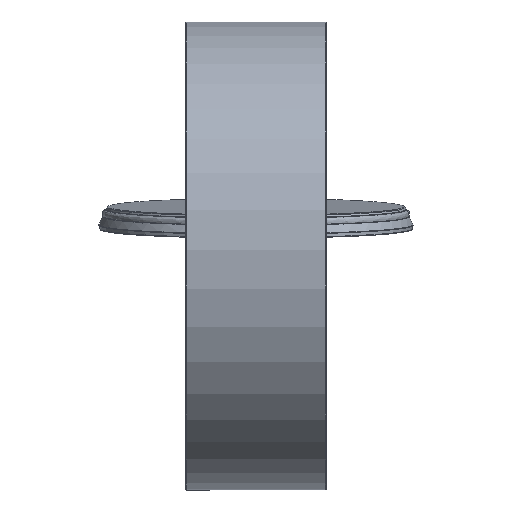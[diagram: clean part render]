
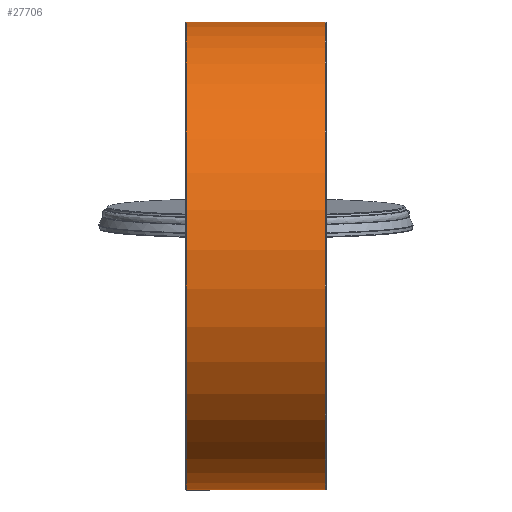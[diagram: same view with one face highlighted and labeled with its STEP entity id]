
A CAD part, left-side view. The second image highlights one B-rep face of the part: STEP entity #27706.
In plain terms, the highlighted free-form (B-spline) face has degree [2, 1] with [7, 2] control points.
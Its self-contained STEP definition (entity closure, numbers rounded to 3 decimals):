
#26451=CARTESIAN_POINT('V16',(89.5,150.,
   0.0));
#26452=VERTEX_POINT('V16',#26451);
#26476=CARTESIAN_POINT('E22',(89.5,150.,
   0.0));
#26477=CARTESIAN_POINT('E22',(89.5,150.,
   -259.808));
#26478=CARTESIAN_POINT('E22',(89.5,-75.,
   -129.904));
#26479=CARTESIAN_POINT('E22',(89.5,
   -300.,0.));
#26480=CARTESIAN_POINT('E22',(89.5,-75.,
   129.904));
#26481=CARTESIAN_POINT('E22',(89.5,150.,
   259.808));
#26482=CARTESIAN_POINT('E22',(89.5,150.,
   0.0));
#26490=(BOUNDED_CURVE()B_SPLINE_CURVE(2,(#26476,#26477,#26478,
   #26479,#26480,#26481,#26482),.CIRCULAR_ARC.,.T.,.U.)
   B_SPLINE_CURVE_WITH_KNOTS((3,2,2,3),(0.0,5.838,
   11.677,17.515),.UNSPECIFIED.)CURVE()
   GEOMETRIC_REPRESENTATION_ITEM()RATIONAL_B_SPLINE_CURVE((1.0,
   0.5,1.0,0.5,1.0,0.5,1.0)
   )REPRESENTATION_ITEM('E22'));
#26491=EDGE_CURVE('E22',#26452,#26452,#26490,.T.);
#27530=CARTESIAN_POINT('V14',(76.038,150.0,
   0.));
#27531=VERTEX_POINT('V14',#27530);
#27532=CARTESIAN_POINT('V3',(76.038,132.5,
   70.312));
#27533=VERTEX_POINT('V3',#27532);
#27534=CARTESIAN_POINT('E17',(76.038,150.0,
   0.));
#27535=CARTESIAN_POINT('E17',(76.038,150.0,
   37.334));
#27536=CARTESIAN_POINT('E17',(76.038,132.5,
   70.312));
#27544=(BOUNDED_CURVE()B_SPLINE_CURVE(2,(#27534,#27535,#27536),
   .CIRCULAR_ARC.,.F.,.U.)CURVE()GEOMETRIC_REPRESENTATION_ITEM()
   QUASI_UNIFORM_CURVE()RATIONAL_B_SPLINE_CURVE((1.0,
   0.874,0.812))REPRESENTATION_ITEM('E17'));
#27545=EDGE_CURVE('E17',#27531,#27533,#27544,.T.);
#27547=CARTESIAN_POINT('V2',(76.038,132.5,
   -70.312));
#27548=VERTEX_POINT('V2',#27547);
#27554=CARTESIAN_POINT('E18',(76.038,132.5,
   -70.312));
#27555=CARTESIAN_POINT('E18',(76.038,150.,
   -37.334));
#27556=CARTESIAN_POINT('E18',(76.038,150.0,
   0.));
#27564=(BOUNDED_CURVE()B_SPLINE_CURVE(2,(#27554,#27555,#27556),
   .CIRCULAR_ARC.,.F.,.U.)CURVE()GEOMETRIC_REPRESENTATION_ITEM()
   QUASI_UNIFORM_CURVE()RATIONAL_B_SPLINE_CURVE((0.812,
   0.874,1.0))REPRESENTATION_ITEM('E18'));
#27565=EDGE_CURVE('E18',#27548,#27531,#27564,.T.);
#27575=CARTESIAN_POINT('V1',(13.963,132.5,
   -70.312));
#27576=VERTEX_POINT('V1',#27575);
#27577=CARTESIAN_POINT('E1',(13.963,132.5,
   -70.312));
#27578=CARTESIAN_POINT('E1',(76.038,132.5,
   -70.312));
#27579=QUASI_UNIFORM_CURVE('E1',1,(#27577,#27578),.POLYLINE_FORM.,
   .F.,.U.);
#27580=EDGE_CURVE('E1',#27576,#27548,#27579,.T.);
#27583=CARTESIAN_POINT('V4',(13.963,132.5,
   70.312));
#27584=VERTEX_POINT('V4',#27583);
#27585=CARTESIAN_POINT('E3',(76.038,132.5,
   70.312));
#27586=CARTESIAN_POINT('E3',(13.963,132.5,
   70.312));
#27587=QUASI_UNIFORM_CURVE('E3',1,(#27585,#27586),.POLYLINE_FORM.,
   .F.,.U.);
#27588=EDGE_CURVE('E3',#27533,#27584,#27587,.T.);
#27612=CARTESIAN_POINT('V15',(13.963,150.0,0.)
   );
#27613=VERTEX_POINT('V15',#27612);
#27614=CARTESIAN_POINT('E19',(13.963,150.0,0.)
   );
#27615=CARTESIAN_POINT('E19',(13.963,150.,
   -37.334));
#27616=CARTESIAN_POINT('E19',(13.963,132.5,
   -70.312));
#27624=(BOUNDED_CURVE()B_SPLINE_CURVE(2,(#27614,#27615,#27616),
   .CIRCULAR_ARC.,.F.,.U.)CURVE()GEOMETRIC_REPRESENTATION_ITEM()
   QUASI_UNIFORM_CURVE()RATIONAL_B_SPLINE_CURVE((1.0,
   0.874,0.812))REPRESENTATION_ITEM('E19'));
#27625=EDGE_CURVE('E19',#27613,#27576,#27624,.T.);
#27628=CARTESIAN_POINT('E20',(13.963,132.5,
   70.312));
#27629=CARTESIAN_POINT('E20',(13.963,150.,
   37.334));
#27630=CARTESIAN_POINT('E20',(13.963,150.0,0.)
   );
#27638=(BOUNDED_CURVE()B_SPLINE_CURVE(2,(#27628,#27629,#27630),
   .CIRCULAR_ARC.,.F.,.U.)CURVE()GEOMETRIC_REPRESENTATION_ITEM()
   QUASI_UNIFORM_CURVE()RATIONAL_B_SPLINE_CURVE((0.812,
   0.874,1.0))REPRESENTATION_ITEM('E20'));
#27639=EDGE_CURVE('E20',#27584,#27613,#27638,.T.);
#27644=CARTESIAN_POINT('F7',(0.5,150.,
   0.0));
#27645=CARTESIAN_POINT('F7',(0.5,150.,
   259.808));
#27646=CARTESIAN_POINT('F7',(0.5,-75.,
   129.904));
#27647=CARTESIAN_POINT('F7',(0.5,-300.,
   0.));
#27648=CARTESIAN_POINT('F7',(0.5,-75.,
   -129.904));
#27649=CARTESIAN_POINT('F7',(0.5,150.,
   -259.808));
#27650=CARTESIAN_POINT('F7',(0.5,150.,
   0.0));
#27651=CARTESIAN_POINT('F7',(89.5,150.,
   0.0));
#27652=CARTESIAN_POINT('F7',(89.5,150.,
   259.808));
#27653=CARTESIAN_POINT('F7',(89.5,-75.,
   129.904));
#27654=CARTESIAN_POINT('F7',(89.5,-300.,
   0.));
#27655=CARTESIAN_POINT('F7',(89.5,-75.,
   -129.904));
#27656=CARTESIAN_POINT('F7',(89.5,150.,
   -259.808));
#27657=CARTESIAN_POINT('F7',(89.5,150.,
   0.0));
#27665=(BOUNDED_SURFACE()B_SPLINE_SURFACE(2,1,((#27644,#27651),(
   #27645,#27652),(#27646,#27653),(#27647,#27654),(#27648,
   #27655),(#27649,#27656),(#27650,#27657)),.CYLINDRICAL_SURF.,
   .T.,.F.,.U.)B_SPLINE_SURFACE_WITH_KNOTS((3,2,2,3),(2,2),(0.0,
   5.838,11.677,17.515),(0.0,
   1.0),.UNSPECIFIED.)GEOMETRIC_REPRESENTATION_ITEM()
   RATIONAL_B_SPLINE_SURFACE(((1.0,1.0),(0.5,
   0.5),(1.0,1.0),(0.5,
   0.5),(1.0,1.0),(0.5,
   0.5),(1.0,1.0)))REPRESENTATION_ITEM('F7')SURFACE()
   );
#27666=ORIENTED_EDGE('E19',*,*,#27625,.F.);
#27667=CARTESIAN_POINT('V17',(0.5,150.0,0.0));
#27668=VERTEX_POINT('V17',#27667);
#27669=CARTESIAN_POINT('E23',(13.963,150.,
   0.0));
#27670=CARTESIAN_POINT('E23',(0.5,150.,
   0.0));
#27671=B_SPLINE_CURVE_WITH_KNOTS('E23',1,(#27669,#27670),
   .POLYLINE_FORM.,.F.,.U.,(2,2),(0.849,1.0),
   .UNSPECIFIED.);
#27672=EDGE_CURVE('E23',#27613,#27668,#27671,.T.);
#27673=ORIENTED_EDGE('E23',*,*,#27672,.T.);
#27674=CARTESIAN_POINT('E24',(0.5,150.0,0.0));
#27675=CARTESIAN_POINT('E24',(0.5,150.,
   -259.808));
#27676=CARTESIAN_POINT('E24',(0.5,-75.,
   -129.904));
#27677=CARTESIAN_POINT('E24',(0.5,-300.,
   0.));
#27678=CARTESIAN_POINT('E24',(0.5,-75.,
   129.904));
#27679=CARTESIAN_POINT('E24',(0.5,150.0,
   259.808));
#27680=CARTESIAN_POINT('E24',(0.5,150.0,0.0));
#27688=(BOUNDED_CURVE()B_SPLINE_CURVE(2,(#27674,#27675,#27676,
   #27677,#27678,#27679,#27680),.CIRCULAR_ARC.,.T.,.U.)
   B_SPLINE_CURVE_WITH_KNOTS((3,2,2,3),(0.0,733.622,
   1467.244,2200.867),.UNSPECIFIED.)CURVE()
   GEOMETRIC_REPRESENTATION_ITEM()RATIONAL_B_SPLINE_CURVE((1.0,
   0.5,1.0,0.5,1.0,0.5,1.0)
   )REPRESENTATION_ITEM('E24'));
#27689=EDGE_CURVE('E24',#27668,#27668,#27688,.T.);
#27690=ORIENTED_EDGE('E24',*,*,#27689,.T.);
#27691=ORIENTED_EDGE('E23',*,*,#27672,.F.);
#27692=ORIENTED_EDGE('F6',*,*,#27639,.F.);
#27693=ORIENTED_EDGE('E3',*,*,#27588,.F.);
#27694=ORIENTED_EDGE('E17',*,*,#27545,.F.);
#27695=CARTESIAN_POINT('E21',(89.5,150.,
   0.0));
#27696=CARTESIAN_POINT('E21',(76.038,150.,
   0.0));
#27697=B_SPLINE_CURVE_WITH_KNOTS('E21',1,(#27695,#27696),
   .POLYLINE_FORM.,.F.,.U.,(2,2),(0.0,0.151),
   .UNSPECIFIED.);
#27698=EDGE_CURVE('E21',#26452,#27531,#27697,.T.);
#27699=ORIENTED_EDGE('E21',*,*,#27698,.F.);
#27700=ORIENTED_EDGE('F12',*,*,#26491,.F.);
#27701=ORIENTED_EDGE('E21',*,*,#27698,.T.);
#27702=ORIENTED_EDGE('F5',*,*,#27565,.F.);
#27703=ORIENTED_EDGE('E1',*,*,#27580,.F.);
#27704=EDGE_LOOP('F7',(#27666,#27673,#27690,#27691,#27692,#27693,
   #27694,#27699,#27700,#27701,#27702,#27703));
#27705=FACE_OUTER_BOUND('F7',#27704,.F.);
#27706=ADVANCED_FACE('F7',(#27705),#27665,.T.);
